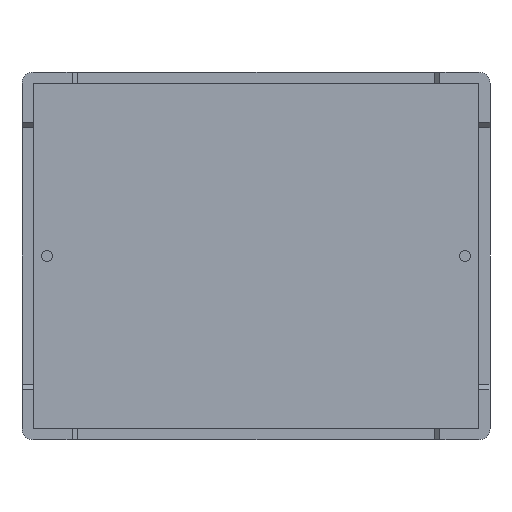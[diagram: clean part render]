
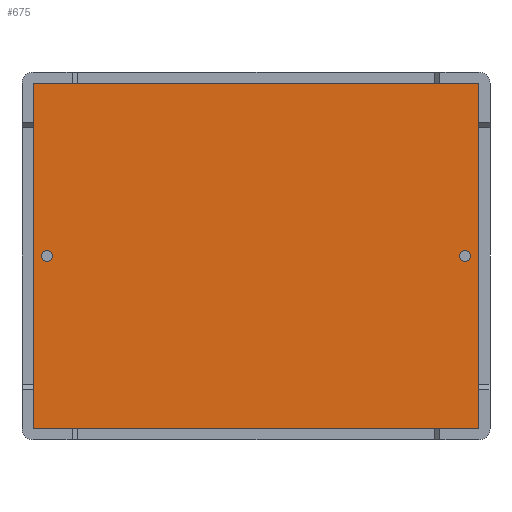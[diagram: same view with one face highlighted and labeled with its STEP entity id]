
A CAD part, front view. The second image highlights one B-rep face of the part: STEP entity #675.
In plain terms, the highlighted planar face has unit normal (0, -1, 0).
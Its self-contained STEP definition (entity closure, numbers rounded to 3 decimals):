
#16 = VERTEX_POINT ( 'NONE', #3057 ) ;
#40 = AXIS2_PLACEMENT_3D ( 'NONE', #2389, #2382, #2358 ) ;
#55 = CARTESIAN_POINT ( 'NONE',  ( 20., 1., 15.4 ) ) ;
#84 = CARTESIAN_POINT ( 'NONE',  ( 20., 1., -15.5 ) ) ;
#129 = EDGE_CURVE ( 'NONE', #3280, #3230, #1206, .T. ) ;
#140 = VERTEX_POINT ( 'NONE', #413 ) ;
#163 = EDGE_CURVE ( 'NONE', #3397, #3193, #1058, .T. ) ;
#194 = EDGE_CURVE ( 'NONE', #3665, #3362, #911, .T. ) ;
#225 = EDGE_CURVE ( 'NONE', #3881, #2733, #725, .T. ) ;
#234 = EDGE_CURVE ( 'NONE', #4150, #16, #641, .T. ) ;
#243 = EDGE_CURVE ( 'NONE', #140, #4272, #807, .T. ) ;
#252 = EDGE_CURVE ( 'NONE', #2733, #3665, #613, .T. ) ;
#263 = EDGE_CURVE ( 'NONE', #3362, #3397, #593, .T. ) ;
#273 = EDGE_CURVE ( 'NONE', #3193, #3280, #541, .T. ) ;
#280 = EDGE_CURVE ( 'NONE', #3230, #3881, #517, .T. ) ;
#289 = FACE_BOUND ( 'NONE', #2149, .T. ) ;
#291 = AXIS2_PLACEMENT_3D ( 'NONE', #2304, #2285, #2280 ) ;
#386 = FACE_OUTER_BOUND ( 'NONE', #2198, .T. ) ;
#413 = CARTESIAN_POINT ( 'NONE',  ( -18.75, 1., 0.5 ) ) ;
#467 = FACE_BOUND ( 'NONE', #2173, .T. ) ;
#517 = CIRCLE ( 'NONE', #933, 0.1 ) ;
#541 = CIRCLE ( 'NONE', #597, 0.1 ) ;
#593 = CIRCLE ( 'NONE', #291, 0.1 ) ;
#597 = AXIS2_PLACEMENT_3D ( 'NONE', #2263, #2254, #2247 ) ;
#609 = CIRCLE ( 'NONE', #2547, 0.5 ) ;
#613 = CIRCLE ( 'NONE', #40, 0.1 ) ;
#641 = CIRCLE ( 'NONE', #4000, 0.5 ) ;
#675 = ADVANCED_FACE ( 'NONE', ( #467, #289, #386 ), #2843, .T. ) ;
#680 = VECTOR ( 'NONE', #2626, 1000. ) ;
#725 = LINE ( 'NONE', #2788, #680 ) ;
#807 = CIRCLE ( 'NONE', #4178, 0.5 ) ;
#878 = VECTOR ( 'NONE', #3001, 1000. ) ;
#911 = LINE ( 'NONE', #3235, #878 ) ;
#913 = AXIS2_PLACEMENT_3D ( 'NONE', #3797, #1975, #4067 ) ;
#933 = AXIS2_PLACEMENT_3D ( 'NONE', #2194, #2189, #2188 ) ;
#996 = DIRECTION ( 'NONE',  ( -1., 0., 0. ) ) ;
#1017 = VECTOR ( 'NONE', #3269, 1000. ) ;
#1058 = LINE ( 'NONE', #84, #1017 ) ;
#1098 = CARTESIAN_POINT ( 'NONE',  ( 20., 1., 15.5 ) ) ;
#1157 = VECTOR ( 'NONE', #996, 1000. ) ;
#1203 = CARTESIAN_POINT ( 'NONE',  ( 18.75, 1., 0.5 ) ) ;
#1206 = LINE ( 'NONE', #1098, #1157 ) ;
#1365 = EDGE_CURVE ( 'NONE', #4272, #140, #1392, .T. ) ;
#1392 = CIRCLE ( 'NONE', #913, 0.5 ) ;
#1716 = DIRECTION ( 'NONE',  ( 0., -1., 0. ) ) ;
#1756 = CARTESIAN_POINT ( 'NONE',  ( 20., 1., -15.4 ) ) ;
#1975 = DIRECTION ( 'NONE',  ( 0., -1., 0. ) ) ;
#2149 = EDGE_LOOP ( 'NONE', ( #2524, #2552 ) ) ;
#2173 = EDGE_LOOP ( 'NONE', ( #2479, #2512 ) ) ;
#2188 = DIRECTION ( 'NONE',  ( 0., 0., -1. ) ) ;
#2189 = DIRECTION ( 'NONE',  ( 0., -1., 0. ) ) ;
#2194 = CARTESIAN_POINT ( 'NONE',  ( -19.9, 1., 15.4 ) ) ;
#2198 = EDGE_LOOP ( 'NONE', ( #2556, #2578, #2591, #2600, #2638, #2656, #2696, #2714 ) ) ;
#2247 = DIRECTION ( 'NONE',  ( 0., 0., -1. ) ) ;
#2254 = DIRECTION ( 'NONE',  ( 0., -1., 0. ) ) ;
#2263 = CARTESIAN_POINT ( 'NONE',  ( 19.9, 1., 15.4 ) ) ;
#2280 = DIRECTION ( 'NONE',  ( 0., 0., -1. ) ) ;
#2285 = DIRECTION ( 'NONE',  ( 0., -1., 0. ) ) ;
#2304 = CARTESIAN_POINT ( 'NONE',  ( 19.9, 1., -15.4 ) ) ;
#2358 = DIRECTION ( 'NONE',  ( 0., 0., -1. ) ) ;
#2382 = DIRECTION ( 'NONE',  ( 0., -1., 0. ) ) ;
#2389 = CARTESIAN_POINT ( 'NONE',  ( -19.9, 1., -15.4 ) ) ;
#2418 = DIRECTION ( 'NONE',  ( 0., 0., -1. ) ) ;
#2423 = DIRECTION ( 'NONE',  ( 0., -1., 0. ) ) ;
#2450 = CARTESIAN_POINT ( 'NONE',  ( -18.75, 1., 0. ) ) ;
#2467 = DIRECTION ( 'NONE',  ( 0., 0., -1. ) ) ;
#2479 = ORIENTED_EDGE ( 'NONE', *, *, #234, .F. ) ;
#2481 = DIRECTION ( 'NONE',  ( 0., -1., 0. ) ) ;
#2494 = CARTESIAN_POINT ( 'NONE',  ( 18.75, 1., 0. ) ) ;
#2512 = ORIENTED_EDGE ( 'NONE', *, *, #3254, .F. ) ;
#2524 = ORIENTED_EDGE ( 'NONE', *, *, #243, .F. ) ;
#2547 = AXIS2_PLACEMENT_3D ( 'NONE', #3570, #1716, #3854 ) ;
#2552 = ORIENTED_EDGE ( 'NONE', *, *, #1365, .F. ) ;
#2556 = ORIENTED_EDGE ( 'NONE', *, *, #225, .T. ) ;
#2578 = ORIENTED_EDGE ( 'NONE', *, *, #252, .T. ) ;
#2591 = ORIENTED_EDGE ( 'NONE', *, *, #194, .T. ) ;
#2600 = ORIENTED_EDGE ( 'NONE', *, *, #263, .T. ) ;
#2626 = DIRECTION ( 'NONE',  ( 0., 0., -1. ) ) ;
#2638 = ORIENTED_EDGE ( 'NONE', *, *, #163, .T. ) ;
#2656 = ORIENTED_EDGE ( 'NONE', *, *, #273, .T. ) ;
#2696 = ORIENTED_EDGE ( 'NONE', *, *, #129, .T. ) ;
#2714 = ORIENTED_EDGE ( 'NONE', *, *, #280, .T. ) ;
#2733 = VERTEX_POINT ( 'NONE', #3174 ) ;
#2788 = CARTESIAN_POINT ( 'NONE',  ( -20., 1., 15.5 ) ) ;
#2837 = DIRECTION ( 'NONE',  ( 0., 0., -1. ) ) ;
#2843 = PLANE ( 'NONE',  #2949 ) ;
#2851 = CARTESIAN_POINT ( 'NONE',  ( 0., 1., 0. ) ) ;
#2949 = AXIS2_PLACEMENT_3D ( 'NONE', #2851, #3115, #2837 ) ;
#3001 = DIRECTION ( 'NONE',  ( 1., 0., 0. ) ) ;
#3057 = CARTESIAN_POINT ( 'NONE',  ( 18.75, 1., -0.5 ) ) ;
#3115 = DIRECTION ( 'NONE',  ( 0., -1., 0. ) ) ;
#3174 = CARTESIAN_POINT ( 'NONE',  ( -20., 1., -15.4 ) ) ;
#3193 = VERTEX_POINT ( 'NONE', #55 ) ;
#3230 = VERTEX_POINT ( 'NONE', #3261 ) ;
#3235 = CARTESIAN_POINT ( 'NONE',  ( -20., 1., -15.5 ) ) ;
#3254 = EDGE_CURVE ( 'NONE', #16, #4150, #609, .T. ) ;
#3261 = CARTESIAN_POINT ( 'NONE',  ( -19.9, 1., 15.5 ) ) ;
#3269 = DIRECTION ( 'NONE',  ( 0., 0., 1. ) ) ;
#3280 = VERTEX_POINT ( 'NONE', #4121 ) ;
#3362 = VERTEX_POINT ( 'NONE', #3581 ) ;
#3397 = VERTEX_POINT ( 'NONE', #1756 ) ;
#3570 = CARTESIAN_POINT ( 'NONE',  ( 18.75, 1., 0. ) ) ;
#3581 = CARTESIAN_POINT ( 'NONE',  ( 19.9, 1., -15.5 ) ) ;
#3654 = CARTESIAN_POINT ( 'NONE',  ( -19.9, 1., -15.5 ) ) ;
#3665 = VERTEX_POINT ( 'NONE', #3654 ) ;
#3797 = CARTESIAN_POINT ( 'NONE',  ( -18.75, 1., 0. ) ) ;
#3854 = DIRECTION ( 'NONE',  ( 0., 0., -1. ) ) ;
#3881 = VERTEX_POINT ( 'NONE', #4222 ) ;
#4000 = AXIS2_PLACEMENT_3D ( 'NONE', #2494, #2481, #2467 ) ;
#4027 = CARTESIAN_POINT ( 'NONE',  ( -18.75, 1., -0.5 ) ) ;
#4067 = DIRECTION ( 'NONE',  ( 0., 0., -1. ) ) ;
#4121 = CARTESIAN_POINT ( 'NONE',  ( 19.9, 1., 15.5 ) ) ;
#4150 = VERTEX_POINT ( 'NONE', #1203 ) ;
#4178 = AXIS2_PLACEMENT_3D ( 'NONE', #2450, #2423, #2418 ) ;
#4222 = CARTESIAN_POINT ( 'NONE',  ( -20., 1., 15.4 ) ) ;
#4272 = VERTEX_POINT ( 'NONE', #4027 ) ;
